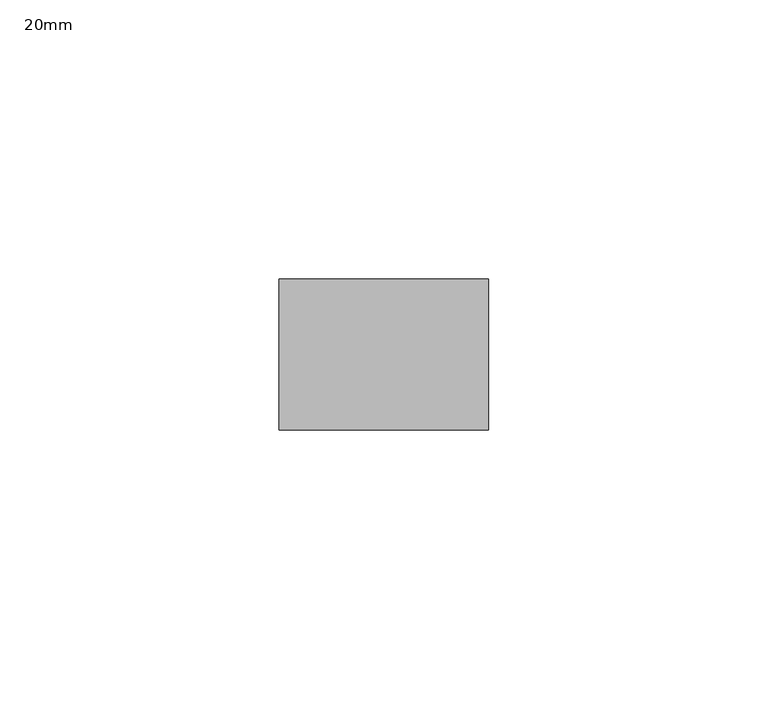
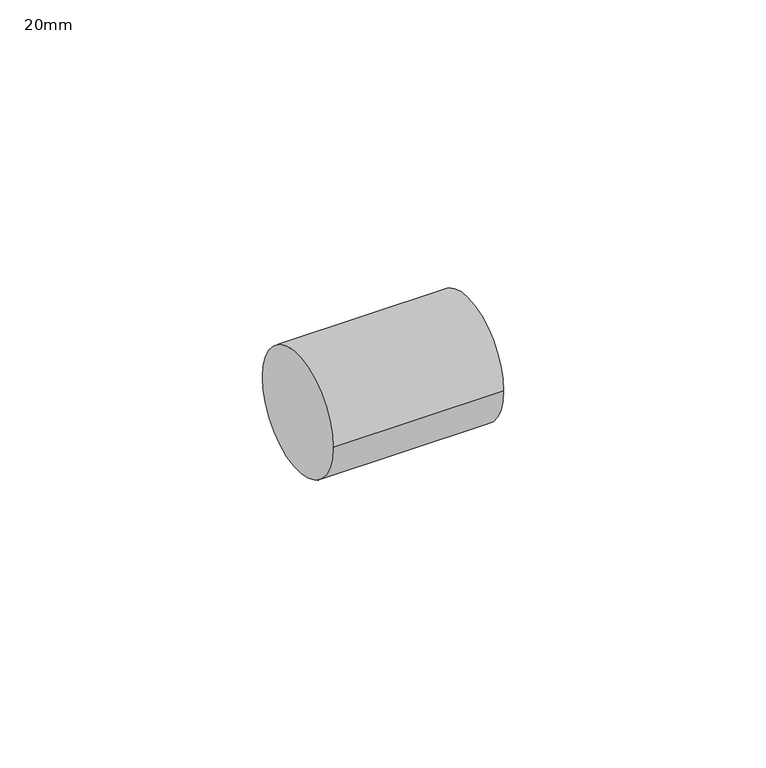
"""IFC4 building model written with IfcOpenShell, lengths in millimetres: pipe fitting geometry, PipeFitting_HTA_CPVC_Couplings : 20mm."""

from ifc_helpers import new_model, si_unit, point, frame, origin, origin_2d, place, context, project, spatial, circle_curve, trimmed, segment, composite_curve, outline, extrude, source, transform, mapped, element, save


def pipe_fitting_20mm_05d67f6a(model_context):
    return source(origin(), model_context, "Body", "SweptSolid", [
        extrude(outline(composite_curve([segment(trimmed(circle_curve(origin_2d(), 13.5), [point((-13.5, 0.0))], [point((13.5, 0.0))], False, "CARTESIAN"), True, "CONTINUOUS"), segment(trimmed(circle_curve(origin_2d(), 13.5), [point((13.5, 0.0))], [point((-13.5, 0.0))], False, "CARTESIAN"), True, "CONTINUOUS")], self_intersect=False)), frame((-18.75, 0.0, 0.0), z_axis=(1.0, 0.0, 0.0), x_axis=(0.0, 1.0, 0.0)), (0.0, 0.0, 1.0), 37.5),
    ])


if __name__ == "__main__":
    model = new_model("IFC4")
    model_context = context("Model", 3, world=origin())
    ifc_project = project(units=[si_unit("LENGTHUNIT", "METRE", prefix="MILLI")], contexts=[model_context])
    site = spatial("IfcSite", under=ifc_project)
    building = spatial("IfcBuilding", under=site)
    placement = place(None, origin())
    pipe_fitting_20mm_shape = pipe_fitting_20mm_05d67f6a(model_context)
    element("IfcPipeFitting", 1, ObjectType="PipeFitting_HTA_CPVC_Couplings : 20mm", at=placement, inside=building, context=model_context, shape_type="MappedRepresentation", body=[
        mapped(pipe_fitting_20mm_shape, transform((0.0, 0.0, 0.0), x_axis=(1.0, 0.0, 0.0), y_axis=(0.0, 1.0, 0.0), z_axis=(0.0, 0.0, 1.0))),
    ])
    save(model, "model.ifc")
